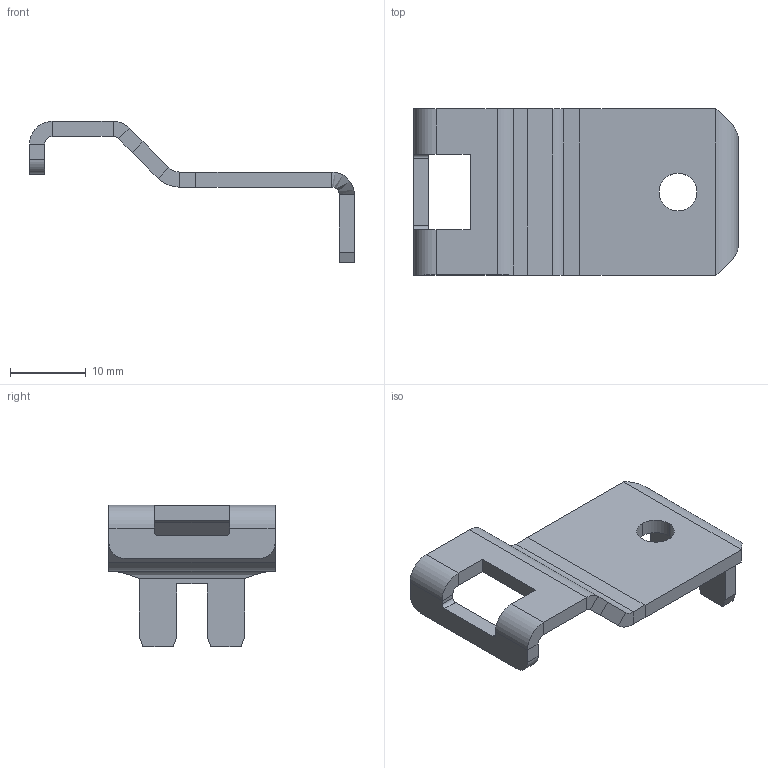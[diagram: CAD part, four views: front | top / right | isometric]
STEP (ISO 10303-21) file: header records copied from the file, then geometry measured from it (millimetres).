
FILE_DESCRIPTION(('CATIA V5 STEP Exchange'),'2;1');
FILE_NAME('D:\交接\张长江\21-Benz H6\光华荣昌转盘数据\H6 转盘\转盘用整椅数据 A9609109920\sample\H6 转盘夏季测试样件方案_20240617\样件数据\钣金件\SHT0017294-11 锁止机构.stp','2024-06-19T07:09:37+00:00',('none'),('none'),'CATIA Version 5 Release 20 GA (IN-10)','CATIA V5 STEP AP203 Edition 2','none');
FILE_SCHEMA(('AP203_CONFIGURATION_CONTROLLED_3D_DESIGN_OF_MECHANICAL_PARTS_AND_ASSEMBLIES_MIM_LF { 1 0 10303 403 2 1 2}'));
Length unit declared in the file: millimetre
Products named in the file (1): SHT0017294-11
Bounding box: 43.02 x 22 x 18.71 mm (x, y, z)
Volume: 2136.5 mm3; surface area: 2583.6 mm2
Topology: 1 solids, 1 shells, 72 faces, 168 edges, 96 vertices
Faces by surface type: plane 52, cylinder 18, bspline 2
Entity records: 2101 total; most frequent: CARTESIAN_POINT 412, ORIENTED_EDGE 336, DIRECTION 287, EDGE_CURVE 168, VECTOR 130, LINE 130, VERTEX_POINT 96, AXIS2_PLACEMENT_3D 95
